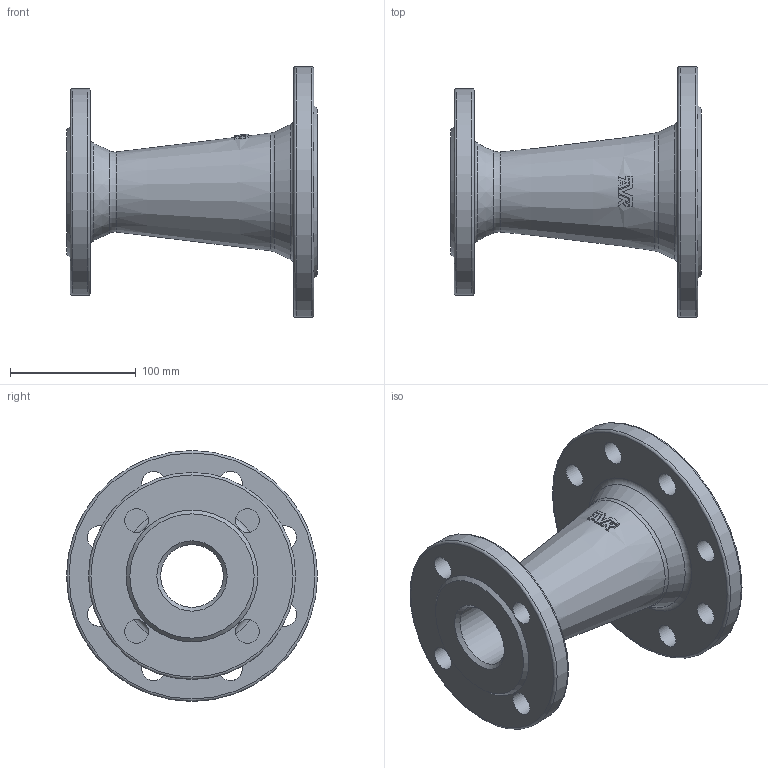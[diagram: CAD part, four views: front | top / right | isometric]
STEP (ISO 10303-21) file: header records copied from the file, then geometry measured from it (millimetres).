
FILE_DESCRIPTION (( 'STEP AP203' ), '1' );
FILE_NAME ('O_712_2210_DN80_DN50_1X_REV01.step', '2024-08-07T10:53:45', ( '' ), ( '' ), 'SwSTEP 2.0', 'SolidWorks 2022', '' );
FILE_SCHEMA (( 'CONFIG_CONTROL_DESIGN' ));
Length unit declared in the file: millimetre
Products named in the file (1): O_712_2210_DN80_DN50_1X_REV01
Bounding box: 200 x 200 x 200 mm (x, y, z)
Volume: 1009265.4 mm3; surface area: 188195 mm2
Topology: 1 solids, 1 shells, 79 faces, 204 edges, 135 vertices
Faces by surface type: plane 41, cylinder 18, cone 12, torus 8
Full cylindrical faces by diameter (mm): 19 x12, 50 x1, 80 x1, 165 x1, 200 x1
Entity records: 2358 total; most frequent: CARTESIAN_POINT 531, DIRECTION 361, ORIENTED_EDGE 322, AXIS2_PLACEMENT_3D 162, EDGE_CURVE 161, EDGE_LOOP 145, VERTEX_POINT 124, FACE_OUTER_BOUND 103
